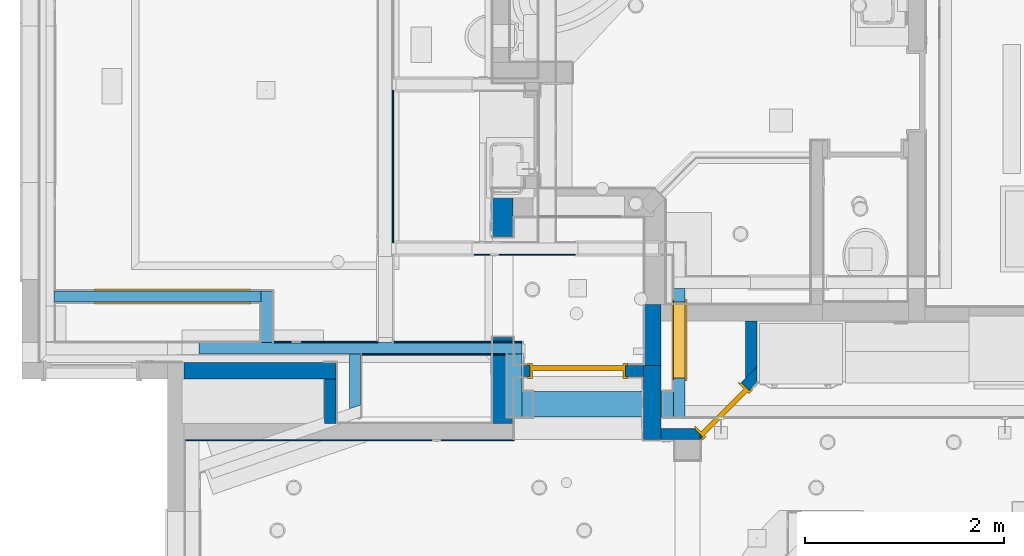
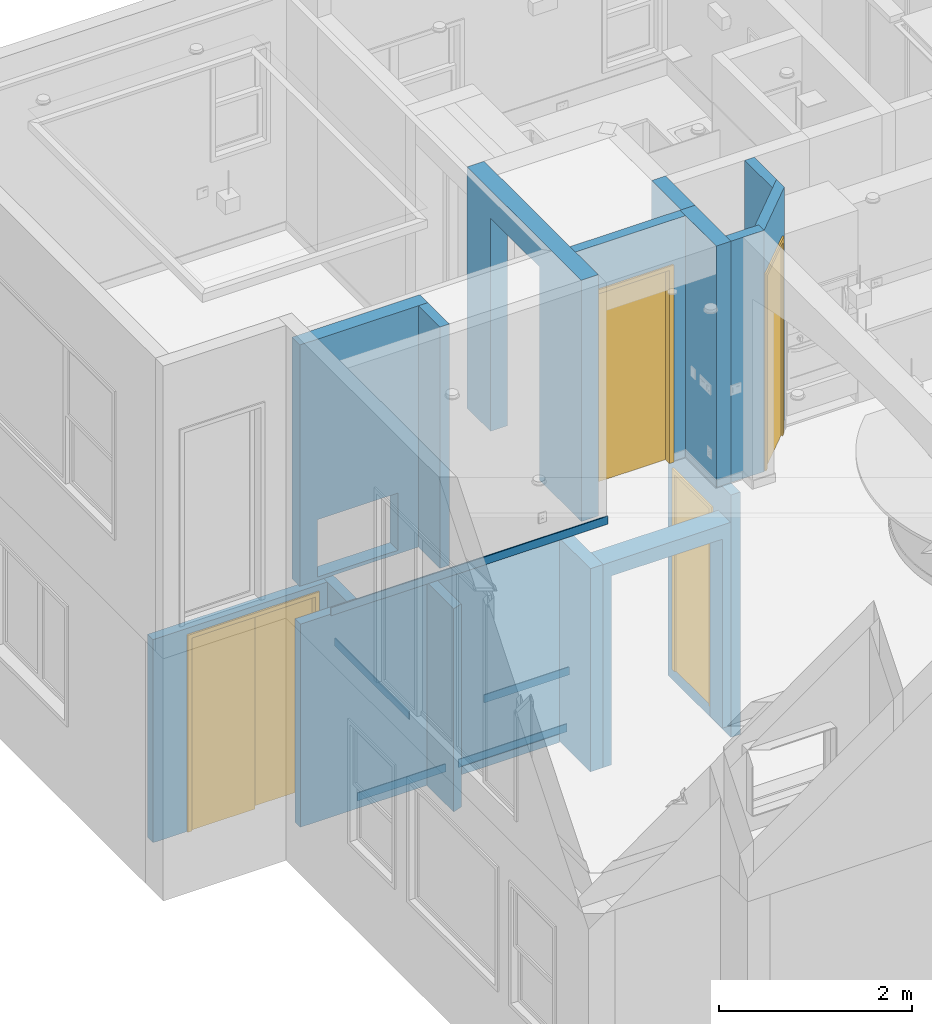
# One storey, part 7 of 60: 22 walls, 4 doors, 9 openings.
"""IFC2X3 building model written with IfcOpenShell, lengths in feet."""

from ifc_helpers import new_model, entity, si_unit, converted_unit, direction, frame, frame_2d, origin, origin_2d_with_axis, place, context, subcontext, project, spatial, polyline, rectangle, outline, extrude, clip, bounded_halfspace, source, transform, mapped, material, layer, layer_set, layer_usage, type_object, type_shapes, element, fill, save


model = new_model("IFC2X3")

# Units and contexts
model_context = context("Model", 3, precision=0.0001, world=origin(), true_north=direction((6.123031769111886e-17, 1.0)))
plan_context = context("Plan", 3, precision=0.0001, world=origin(), true_north=direction((6.123031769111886e-17, 1.0)))
body_context = subcontext(model_context, "Body", "Model", "MODEL_VIEW")
ifc_project = project(units=[converted_unit("LENGTHUNIT", "FOOT", entity("IfcLengthMeasure", 0.3048), si_unit("LENGTHUNIT", "METRE"), dimensions=[1, 0, 0, 0, 0, 0, 0]), converted_unit("AREAUNIT", "SQUARE FOOT", entity("IfcAreaMeasure", 0.09290304), si_unit("AREAUNIT", "SQUARE_METRE"), dimensions=[2, 0, 0, 0, 0, 0, 0]), converted_unit("PLANEANGLEUNIT", "DEGREE", entity("IfcPlaneAngleMeasure", 0.017453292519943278), si_unit("PLANEANGLEUNIT", "RADIAN"), dimensions=[0, 0, 0, 0, 0, 0, 0])], contexts=[model_context, plan_context])

# Site, building, storey
site_placement = place(None, origin())
site = spatial("IfcSite", under=ifc_project, at=site_placement, Name="Default", CompositionType="ELEMENT")
building_placement = place(site_placement, origin())
building = spatial("IfcBuilding", under=site, at=building_placement, CompositionType="ELEMENT")
storey_placement = place(building_placement, origin())
storey = spatial("IfcBuildingStorey", under=building, at=storey_placement, Name="First floor", CompositionType="ELEMENT", Elevation=0.0)

# Wall, openings
ifc_material = material(Name="Default New Material")
ifc_layer_1 = layer(ifc_material, 0.5416666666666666)
ifc_layer_set_1 = layer_set([ifc_layer_1], Name="Basic Wall:Wall_6.5\"")
ifc_layer_usage_1 = layer_usage(ifc_layer_set_1, "AXIS2", "NEGATIVE", 0.2708333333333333)
wall_type_1 = type_object("IfcWallType", Name="Basic Wall:Wall_6.5\"", PredefinedType="STANDARD", material=ifc_layer_set_1)
wall_1_placement = place(storey_placement, frame((-16.499999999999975, 31.312499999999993, 10.666666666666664)))
wall_1 = element("IfcWallStandardCase", 1, at=wall_1_placement, inside=storey, type_object=wall_type_1, material=ifc_layer_usage_1, Name="Basic Wall:Wall_6.5\"", ObjectType="Basic Wall:Wall_6.5\"", context=body_context, shape_type="SweptSolid", body=[
    extrude(rectangle(XDim=5.020833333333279, YDim=0.5416666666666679, at=frame_2d((2.5104166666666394, -1.1934897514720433e-15), x_axis=(-1.0, 0.0))), origin(), (0.0, 0.0, 1.0), 10.0),
])
opening_1_placement = place(wall_1_placement, frame((16.50000000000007, -31.312499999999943, -10.666666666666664)))
element("IfcOpeningElement", 2, at=opening_1_placement, cuts=wall_1, Name="Basic Wall:Wall_6.5\"", ObjectType="Recess", context=body_context, shape_type="SweptSolid", body=[
    extrude(rectangle(XDim=4.333333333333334, YDim=3.833333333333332, at=frame_2d((-8.881784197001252e-16, 0.0), x_axis=(1.0, 0.0))), frame((-14.395833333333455, 31.083333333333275, 17.333333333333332), z_axis=(0.0, 1.0, 0.0), x_axis=(0.0, 0.0, -1.0)), (0.0, 0.0, 1.0), 0.5),
])
opening_2_placement = place(wall_1_placement, frame((16.50000000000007, -31.312499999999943, -10.666666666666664)))
element("IfcOpeningElement", 3, at=opening_2_placement, cuts=wall_1, Name="Basic Wall:Wall_6.5\"", ObjectType="Opening", context=body_context, shape_type="SweptSolid", body=[
    extrude(rectangle(XDim=2.3749999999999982, YDim=3.166666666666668, at=frame_2d((1.7763568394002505e-15, 8.881784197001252e-16), x_axis=(0.0, 1.0))), frame((-14.229155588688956, 30.892313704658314, 12.0), z_axis=(0.0, 1.0, 0.0), x_axis=(-1.0, 0.0, 0.0)), (0.0, 0.0, 1.0), 0.6910196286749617),
])

# Wall
ifc_layer_usage_2 = layer_usage(ifc_layer_set_1, "AXIS2", "NEGATIVE", 0.2708333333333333)
wall_2_placement = place(storey_placement, frame((-1.0208333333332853, 31.49999999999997, 10.666666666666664), z_axis=(0.0, 0.0, 1.0), x_axis=(0.0, 1.0, 0.0)))
element("IfcWallStandardCase", 4, at=wall_2_placement, inside=storey, type_object=wall_type_1, material=ifc_layer_usage_2, Name="Basic Wall:Wall_6.5\"", ObjectType="Basic Wall:Wall_6.5\"", context=body_context, shape_type="SweptSolid", body=[
    extrude(rectangle(XDim=2.000000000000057, YDim=0.5416666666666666, at=frame_2d((1.0000000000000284, 5.551115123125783e-17), x_axis=(-1.0, 0.0))), origin(), (0.0, 0.0, 1.0), 10.0),
])

# Wall, opening
ifc_layer_2 = layer(ifc_material, 0.6666666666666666)
ifc_layer_set_2 = layer_set([ifc_layer_2], Name="Basic Wall:Wall_8\"")
ifc_layer_usage_3 = layer_usage(ifc_layer_set_2, "AXIS2", "NEGATIVE", 0.33333333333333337)
wall_type_2 = type_object("IfcWallType", Name="Basic Wall:Wall_8\"", PredefinedType="STANDARD", material=ifc_layer_set_2)
wall_3_placement = place(storey_placement, frame((-5.979166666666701, 29.58333333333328, 10.666666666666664), z_axis=(0.0, 0.0, 1.0), x_axis=(0.0, 1.0, 0.0)))
wall_3 = element("IfcWallStandardCase", 5, at=wall_3_placement, inside=storey, type_object=wall_type_2, material=ifc_layer_usage_3, Name="Basic Wall:Wall_8\"", ObjectType="Basic Wall:Wall_8\"", context=body_context, shape_type="SweptSolid", body=[
    extrude(rectangle(XDim=7.750000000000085, YDim=0.666666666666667, at=frame_2d((3.8750000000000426, -6.106226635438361e-16), x_axis=(1.0, 0.0))), origin(), (0.0, 0.0, 1.0), 10.0),
])
opening_3_placement = place(wall_3_placement, frame((-29.583333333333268, -5.979166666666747, -10.666666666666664)))
element("IfcOpeningElement", 6, at=opening_3_placement, cuts=wall_3, Name="Basic Wall:Wall_8\"", ObjectType="Opening", context=body_context, shape_type="SweptSolid", body=[
    extrude(rectangle(XDim=8.833333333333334, YDim=3.3333333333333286, at=frame_2d((8.881784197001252e-16, 0.0), x_axis=(1.0, 0.0))), frame((34.08333333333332, 5.645833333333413, 15.083333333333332), z_axis=(0.0, 1.0, 0.0), x_axis=(0.0, 0.0, 1.0)), (0.0, 0.0, 1.0), 0.666666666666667),
])

# Wall
ifc_layer_3 = layer(ifc_material, 0.375)
ifc_layer_set_3 = layer_set([ifc_layer_3], Name="Basic Wall:Wall_4.5\"")
ifc_layer_usage_4 = layer_usage(ifc_layer_set_3, "AXIS2", "NEGATIVE", 0.1875)
wall_type_3 = type_object("IfcWallType", Name="Basic Wall:Wall_4.5\"", PredefinedType="STANDARD", material=ifc_layer_set_3)
wall_4_placement = place(storey_placement, frame((-11.666666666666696, 31.041666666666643, 10.666666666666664), z_axis=(0.0, 0.0, 1.0), x_axis=(0.0, -1.0, 0.0)))
element("IfcWallStandardCase", 7, at=wall_4_placement, inside=storey, type_object=wall_type_3, material=ifc_layer_usage_4, Name="Basic Wall:Wall_4.5\"", ObjectType="Basic Wall:Wall_4.5\"", context=body_context, shape_type="SweptSolid", body=[
    extrude(rectangle(XDim=1.4583333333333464, YDim=0.375, at=frame_2d((0.7291666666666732, 0.0), x_axis=(-1.0, 0.0))), origin(), (0.0, 0.0, 1.0), 10.0),
])

# Wall, opening
ifc_layer_usage_5 = layer_usage(ifc_layer_set_3, "AXIS2", "NEGATIVE", 0.1875)
wall_5_placement = place(storey_placement, frame((-0.7499999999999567, 29.229166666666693, 10.666666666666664)))
wall_5 = element("IfcWallStandardCase", 8, at=wall_5_placement, inside=storey, type_object=wall_type_3, material=ifc_layer_usage_5, Name="Basic Wall:Wall_4.5\"", ObjectType="Basic Wall:Wall_4.5\"", context=body_context, shape_type="SweptSolid", body=[
    extrude(rectangle(XDim=1.2916666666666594, YDim=0.375, at=frame_2d((0.6458333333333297, 0.0), x_axis=(-1.0, 0.0))), origin(), (0.0, 0.0, 1.0), 10.0),
])
opening_4_placement = place(wall_5_placement, frame((0.7500000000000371, -29.22916666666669, 0.0)))
element("IfcOpeningElement", 9, at=opening_4_placement, cuts=wall_5, Name="Basic Wall:Wall_4.5\"", ObjectType="Opening", context=body_context, shape_type="SweptSolid", body=[
    extrude(rectangle(XDim=8.083333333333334, YDim=0.3749999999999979, at=frame_2d((-1.8735013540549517e-15, 8.881784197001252e-16), x_axis=(0.0, 1.0))), frame((0.4975624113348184, 29.262727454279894, 4.041666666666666), z_axis=(0.7071067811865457, 0.7071067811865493, 0.0), x_axis=(-0.7071067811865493, 0.7071067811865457, 0.0)), (0.0, 0.0, 1.0), 2.1666666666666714),
])

# Wall, opening, door
ifc_layer_usage_6 = layer_usage(ifc_layer_set_3, "AXIS2", "NEGATIVE", 0.1875)
wall_6_placement = place(storey_placement, frame((0.40908414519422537, 29.17424918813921, 10.666666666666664), z_axis=(0.0, 0.0, 1.0), x_axis=(0.7071067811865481, 0.7071067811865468, 0.0)))
wall_6 = element("IfcWallStandardCase", 10, at=wall_6_placement, inside=storey, type_object=wall_type_3, material=ifc_layer_usage_6, Name="Basic Wall:Wall_4.5\"", ObjectType="Basic Wall:Wall_4.5\"", context=body_context, shape_type="SweptSolid", body=[
    extrude(outline(polyline([(0.0, -0.1874999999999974), (2.6511736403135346, -0.18749999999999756), (3.0261736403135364, 0.18750000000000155), (2.495843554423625, 0.18750000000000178), (0.155330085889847, 0.18750000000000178), (0.2651650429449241, 0.07766504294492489), (0.0, -0.1874999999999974)])), origin(), (0.0, 0.0, 1.0), 10.0),
])
opening_5_placement = place(wall_6_placement, frame((2.2917938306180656, 0.18750000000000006, 0.0)))
opening_5 = element("IfcOpeningElement", 11, at=opening_5_placement, cuts=wall_6, Name="C_Single Door:2'-0\" X 8'-0\":1", ObjectType="Opening", context=body_context, shape_type="SweptSolid", body=[
    extrude(rectangle(XDim=2.1666666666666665, YDim=8.083333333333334, at=frame_2d((4.041666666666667, 1.083333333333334), x_axis=(0.0, -1.0))), frame((0.0, 0.0, 0.0), z_axis=(0.0, -1.0, 0.0), x_axis=(0.0, 0.0, 1.0)), (0.0, 0.0, 1.0), 0.37499999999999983),
])
door_style_1 = type_object("IfcDoorStyle", Name="C_Single Door:2'-0\" X 8'-0\"", ConstructionType="NOTDEFINED", OperationType="SINGLE_SWING_LEFT", ParameterTakesPrecedence=False, Sizeable=False, material=ifc_material)
shared_shape_1 = source(origin(), body_context, "Body", "SweptSolid", [
    extrude(rectangle(XDim=0.16666666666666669, YDim=1.9999999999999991, at=origin_2d_with_axis()), frame((1.0833333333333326, 0.08333333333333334, 0.0), z_axis=(0.0, 0.0, 1.0), x_axis=(0.0, 1.0, 0.0)), (0.0, 0.0, 1.0), 8.0),
    extrude(outline(polyline([(-3.958333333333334, 1.0), (4.041666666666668, 1.0), (4.041666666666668, 1.1666666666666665), (-4.125000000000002, 1.1666666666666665), (-4.125000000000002, -1.1666666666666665), (4.041666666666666, -1.1666666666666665), (4.041666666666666, -1.0), (-3.958333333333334, -1.0), (-3.958333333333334, 1.0)])), frame((1.0833333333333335, -0.0625, 4.041666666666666), z_axis=(0.0, 1.0, 0.0), x_axis=(0.0, 0.0, -1.0)), (0.0, 0.0, 1.0), 0.0625),
    extrude(outline(polyline([(-3.989583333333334, 1.0), (4.010416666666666, 1.0), (4.010416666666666, 1.0416666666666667), (-4.03125, 1.0416666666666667), (-4.03125, -1.0416666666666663), (4.010416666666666, -1.0416666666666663), (4.010416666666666, -1.0), (-3.989583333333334, -1.0), (-3.989583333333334, 1.0)])), frame((1.0833333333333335, 0.375, 4.010416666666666), z_axis=(0.0, 1.0, 0.0), x_axis=(0.0, 0.0, -1.0)), (0.0, 0.0, 1.0), 0.0625),
    extrude(outline(polyline([(-4.020833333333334, -1.0833333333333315), (4.0625, -1.0833333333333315), (4.0625, 1.0833333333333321), (-4.020833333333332, 1.0833333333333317), (-4.020833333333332, 1.0), (3.979166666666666, 1.0), (3.979166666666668, -1.0), (-4.020833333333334, -1.0), (-4.020833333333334, -1.0833333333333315)])), frame((1.0833333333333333, 0.0, 4.020833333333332), z_axis=(0.0, 1.0, 0.0), x_axis=(0.0, 0.0, 1.0)), (0.0, 0.0, 1.0), 0.375),
])
type_shapes(door_style_1, [shared_shape_1])
door_1_placement = place(opening_5_placement, frame((-2.166666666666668, -0.3750000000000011, 0.0)))
door_1 = element("IfcDoor", 12, at=door_1_placement, inside=storey, type_object=door_style_1, material=ifc_material, Name="C_Single Door:2'-0\" X 8'-0\"", ObjectType="C_Single Door:2'-0\" X 8'-0\"", OverallHeight=8.083333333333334, OverallWidth=2.166666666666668, context=body_context, shape_type="MappedRepresentation", body=[
    mapped(shared_shape_1, transform((0.0, 0.0, 0.0), scale=1.0)),
])
fill(opening_5, door_1)

# Wall
ifc_layer_usage_7 = layer_usage(ifc_layer_set_3, "AXIS2", "NEGATIVE", 0.1875)
wall_7_placement = place(storey_placement, frame((2.22882952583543, 31.07165961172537, 10.666666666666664), z_axis=(0.0, 0.0, 1.0), x_axis=(0.0, 1.0, 0.0)))
element("IfcWallStandardCase", 13, at=wall_7_placement, inside=storey, type_object=wall_type_3, material=ifc_layer_usage_7, Name="Basic Wall:Wall_4.5\"", ObjectType="Basic Wall:Wall_4.5\"", context=body_context, shape_type="SweptSolid", body=[
    extrude(outline(polyline([(1.8866737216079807, -0.1874999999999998), (1.8866737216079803, 0.1875000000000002), (0.0, 0.1875), (0.3750000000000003, -0.18749999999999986), (1.8866737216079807, -0.1874999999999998)])), origin(), (0.0, 0.0, 1.0), 10.0),
])

# Wall, opening, door
ifc_layer_usage_8 = layer_usage(ifc_layer_set_3, "AXIS2", "NEGATIVE", 0.1875)
wall_8_placement = place(storey_placement, frame((-5.645833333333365, 31.312499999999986, 10.666666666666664)))
wall_8 = element("IfcWallStandardCase", 14, at=wall_8_placement, inside=storey, type_object=wall_type_3, material=ifc_layer_usage_8, Name="Basic Wall:Wall_4.5\"", ObjectType="Basic Wall:Wall_4.5\"", context=body_context, shape_type="SweptSolid", body=[
    extrude(rectangle(XDim=4.31250000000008, YDim=0.375, at=frame_2d((2.15625000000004, -8.465450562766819e-16), x_axis=(-1.0, 0.0))), origin(), (0.0, 0.0, 1.0), 10.0),
])
opening_6_placement = place(wall_8_placement, frame((0.5625000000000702, -0.18750000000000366, 0.0)))
opening_6 = element("IfcOpeningElement", 15, at=opening_6_placement, cuts=wall_8, Name="C_Single Door:3'-0\" X 8'-0\":1", ObjectType="Opening", context=body_context, shape_type="SweptSolid", body=[
    extrude(rectangle(XDim=3.166666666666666, YDim=8.083333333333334, at=frame_2d((4.041666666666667, 1.583333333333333), x_axis=(0.0, -1.0))), frame((0.0, 0.0, 0.0), z_axis=(0.0, 1.0, 0.0), x_axis=(0.0, 0.0, 1.0)), (0.0, 0.0, 1.0), 0.375),
])
door_style_2 = type_object("IfcDoorStyle", Name="C_Single Door:3'-0\" X 8'-0\"", ConstructionType="NOTDEFINED", OperationType="SINGLE_SWING_LEFT", ParameterTakesPrecedence=False, Sizeable=False, material=ifc_material)
shared_shape_2 = source(origin(), body_context, "Body", "SweptSolid", [
    extrude(rectangle(XDim=0.16666666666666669, YDim=2.999999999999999, at=origin_2d_with_axis()), frame((1.5833333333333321, 0.08333333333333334, 0.0), z_axis=(0.0, 0.0, 1.0), x_axis=(0.0, 1.0, 0.0)), (0.0, 0.0, 1.0), 8.0),
    extrude(outline(polyline([(-3.958333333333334, 1.4999999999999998), (4.041666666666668, 1.4999999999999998), (4.041666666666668, 1.6666666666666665), (-4.125000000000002, 1.6666666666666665), (-4.125000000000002, -1.6666666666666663), (4.041666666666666, -1.6666666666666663), (4.041666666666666, -1.4999999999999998), (-3.958333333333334, -1.4999999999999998), (-3.958333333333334, 1.4999999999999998)])), frame((1.583333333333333, -0.0625, 4.041666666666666), z_axis=(0.0, 1.0, 0.0), x_axis=(0.0, 0.0, -1.0)), (0.0, 0.0, 1.0), 0.0625),
    extrude(outline(polyline([(-3.958333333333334, 1.4999999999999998), (4.041666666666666, 1.4999999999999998), (4.041666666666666, 1.6666666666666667), (-4.125, 1.6666666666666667), (-4.125, -1.6666666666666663), (4.041666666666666, -1.6666666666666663), (4.041666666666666, -1.5000000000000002), (-3.958333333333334, -1.5000000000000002), (-3.958333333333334, 1.4999999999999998)])), frame((1.5833333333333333, 0.375, 4.041666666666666), z_axis=(0.0, 1.0, 0.0), x_axis=(0.0, 0.0, -1.0)), (0.0, 0.0, 1.0), 0.0625),
    extrude(outline(polyline([(-4.020833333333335, -1.5833333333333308), (4.062499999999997, -1.5833333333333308), (4.062499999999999, 1.5833333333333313), (-4.020833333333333, 1.5833333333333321), (-4.020833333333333, 1.4999999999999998), (3.979166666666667, 1.4999999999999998), (3.979166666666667, -1.4999999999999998), (-4.020833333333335, -1.4999999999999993), (-4.020833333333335, -1.5833333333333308)])), frame((1.5833333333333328, 0.0, 4.020833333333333), z_axis=(0.0, 1.0, 0.0), x_axis=(0.0, 0.0, 1.0)), (0.0, 0.0, 1.0), 0.375),
])
type_shapes(door_style_2, [shared_shape_2])
door_2_placement = place(opening_6_placement, frame((3.166666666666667, 0.3749999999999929, 0.0), z_axis=(0.0, 0.0, 1.0), x_axis=(-1.0, 0.0, 0.0)))
door_2 = element("IfcDoor", 16, at=door_2_placement, inside=storey, type_object=door_style_2, material=ifc_material, Name="C_Single Door:3'-0\" X 8'-0\"", ObjectType="C_Single Door:3'-0\" X 8'-0\"", OverallHeight=8.083333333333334, OverallWidth=3.166666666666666, context=body_context, shape_type="MappedRepresentation", body=[
    mapped(shared_shape_2, transform((0.0, 0.0, 0.0), scale=1.0)),
])
fill(opening_6, door_2)

ifc_layer_usage_9 = layer_usage(ifc_layer_set_3, "AXIS2", "NEGATIVE", 0.1875)
wall_9_placement = place(storey_placement, frame((-0.14583333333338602, 34.041666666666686, -0.5), z_axis=(0.0, 0.0, 1.0), x_axis=(0.0, -1.0, 0.0)))
wall_9 = element("IfcWallStandardCase", 17, at=wall_9_placement, inside=storey, type_object=wall_type_3, material=ifc_layer_usage_9, Name="Basic Wall:Wall_4.5\"", ObjectType="Basic Wall:Wall_4.5\"", context=body_context, shape_type="SweptSolid", body=[
    extrude(rectangle(XDim=4.250000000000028, YDim=0.375, at=frame_2d((2.125000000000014, 1.3877787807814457e-17), x_axis=(-1.0, 0.0))), origin(), (0.0, 0.0, 1.0), 10.041666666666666),
])
opening_7_placement = place(wall_9_placement, frame((2.9583333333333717, 0.18749999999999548, 0.5)))
opening_7 = element("IfcOpeningElement", 18, at=opening_7_placement, cuts=wall_9, Name="C_Single Door:2'-4\" X 8'-2\":1", ObjectType="Opening", context=body_context, shape_type="SweptSolid", body=[
    extrude(rectangle(XDim=2.4999999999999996, YDim=8.25, at=frame_2d((4.125, 1.25), x_axis=(0.0, 1.0))), frame((0.0, 0.0, 0.0), z_axis=(0.0, -1.0, 0.0), x_axis=(0.0, 0.0, 1.0)), (0.0, 0.0, 1.0), 0.375),
])
door_style_3 = type_object("IfcDoorStyle", Name="C_Single Door:2'-4\" X 8'-2\"", ConstructionType="NOTDEFINED", OperationType="SINGLE_SWING_RIGHT", ParameterTakesPrecedence=False, Sizeable=False, material=ifc_material)
shared_shape_3 = source(origin(), body_context, "Body", "SweptSolid", [
    extrude(rectangle(XDim=2.333333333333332, YDim=0.16666666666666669, at=origin_2d_with_axis()), frame((1.2500000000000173, 0.08333333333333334, 0.0)), (0.0, 0.0, 1.0), 8.166666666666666),
    extrude(outline(polyline([(-4.041666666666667, 1.1666666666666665), (4.125000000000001, 1.1666666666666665), (4.125000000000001, 1.3333333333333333), (-4.208333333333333, 1.3333333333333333), (-4.208333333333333, -1.3333333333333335), (4.124999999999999, -1.3333333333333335), (4.124999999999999, -1.1666666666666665), (-4.041666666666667, -1.1666666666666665), (-4.041666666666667, 1.1666666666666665)])), frame((1.2500000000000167, 0.0, 4.124999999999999), z_axis=(0.0, -1.0, 0.0), x_axis=(0.0, 0.0, -1.0)), (0.0, 0.0, 1.0), 0.0625),
    extrude(outline(polyline([(-4.041666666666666, 1.1666666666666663), (4.125, 1.1666666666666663), (4.125, 1.3333333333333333), (-4.208333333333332, 1.3333333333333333), (-4.208333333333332, -1.3333333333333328), (4.125, -1.3333333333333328), (4.125, -1.1666666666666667), (-4.041666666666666, -1.1666666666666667), (-4.041666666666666, 1.1666666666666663)])), frame((1.2500000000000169, 0.4375, 4.125), z_axis=(0.0, -1.0, 0.0), x_axis=(0.0, 0.0, -1.0)), (0.0, 0.0, 1.0), 0.0625),
    extrude(outline(polyline([(1.1666666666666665, -4.104166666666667), (1.249999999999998, -4.104166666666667), (1.2499999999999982, 4.145833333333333), (-1.2499999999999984, 4.145833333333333), (-1.2499999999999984, -4.104166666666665), (-1.1666666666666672, -4.104166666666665), (-1.1666666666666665, 4.062500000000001), (1.1666666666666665, 4.062500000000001), (1.1666666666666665, -4.104166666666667)])), frame((1.2500000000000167, 0.375, 4.104166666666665), z_axis=(0.0, -1.0, 0.0), x_axis=(1.0, 0.0, 0.0)), (0.0, 0.0, 1.0), 0.375),
])
type_shapes(door_style_3, [shared_shape_3])
door_3_placement = place(opening_7_placement, frame((-2.500000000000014, -0.37499999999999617, 0.0)))
door_3 = element("IfcDoor", 19, at=door_3_placement, inside=storey, type_object=door_style_3, material=ifc_material, Name="C_Single Door:2'-4\" X 8'-2\"", ObjectType="C_Single Door:2'-4\" X 8'-2\"", OverallHeight=8.25, OverallWidth=2.5, context=body_context, shape_type="MappedRepresentation", body=[
    mapped(shared_shape_3, transform((0.0, 0.0, 0.0), scale=1.0)),
])
fill(opening_7, door_3)

# Walls
ifc_layer_usage_10 = layer_usage(ifc_layer_set_3, "AXIS2", "POSITIVE", -0.1875)
wall_10_placement = place(storey_placement, frame((-10.854166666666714, 30.0592977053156, 0.0), z_axis=(0.0, 0.0, 1.0), x_axis=(0.0, 1.0, 0.0)))
element("IfcWallStandardCase", 20, at=wall_10_placement, inside=storey, type_object=wall_type_3, material=ifc_layer_usage_10, Name="Basic Wall:Wall_4.5\"", ObjectType="Basic Wall:Wall_4.5\"", context=body_context, shape_type="SweptSolid", body=[
    extrude(outline(polyline([(1.8157022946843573, -0.1875), (1.8157022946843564, 0.1875), (0.0, 0.1875), (0.1289062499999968, -0.18749999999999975), (1.8157022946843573, -0.1875)])), origin(), (0.0, 0.0, 1.0), 8.416666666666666),
])
ifc_layer_usage_11 = layer_usage(ifc_layer_set_3, "AXIS2", "NEGATIVE", 0.1875)
wall_11_placement = place(storey_placement, frame((-16.0, 32.06249999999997, 0.0)))
element("IfcWallStandardCase", 21, at=wall_11_placement, inside=storey, type_object=wall_type_3, material=ifc_layer_usage_11, Name="Basic Wall:Wall_4.5\"", ObjectType="Basic Wall:Wall_4.5\"", context=body_context, shape_type="SweptSolid", body=[
    extrude(rectangle(XDim=10.666666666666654, YDim=0.375, at=frame_2d((5.333333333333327, 6.938893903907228e-16), x_axis=(-1.0, 0.0))), origin(), (0.0, 0.0, 1.0), 8.416666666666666),
])
ifc_layer_usage_12 = layer_usage(ifc_layer_set_3, "AXIS2", "POSITIVE", -0.1875)
wall_12_placement = place(storey_placement, frame((-13.770833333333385, 32.249999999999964, 0.0), z_axis=(0.0, 0.0, 1.0), x_axis=(0.0, 1.0, 0.0)))
element("IfcWallStandardCase", 22, at=wall_12_placement, inside=storey, type_object=wall_type_3, material=ifc_layer_usage_12, Name="Basic Wall:Wall_4.5\"", ObjectType="Basic Wall:Wall_4.5\"", context=body_context, shape_type="SweptSolid", body=[
    extrude(rectangle(XDim=1.70833333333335, YDim=0.375, at=frame_2d((0.854166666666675, 4.996003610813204e-16), x_axis=(-1.0, 0.0))), origin(), (0.0, 0.0, 1.0), 8.416666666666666),
])

# Wall, opening, door
ifc_layer_usage_13 = layer_usage(ifc_layer_set_3, "AXIS2", "POSITIVE", -0.1875)
wall_13_placement = place(storey_placement, frame((-13.958333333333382, 33.770833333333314, 0.0), z_axis=(0.0, 0.0, 1.0), x_axis=(-1.0, 0.0, 0.0)))
wall_13 = element("IfcWallStandardCase", 23, at=wall_13_placement, inside=storey, type_object=wall_type_3, material=ifc_layer_usage_13, Name="Basic Wall:Wall_4.5\"", ObjectType="Basic Wall:Wall_4.5\"", context=body_context, shape_type="SweptSolid", body=[
    extrude(rectangle(XDim=6.833333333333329, YDim=0.375, at=frame_2d((3.4166666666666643, 0.0), x_axis=(1.0, 0.0))), origin(), (0.0, 0.0, 1.0), 8.416666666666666),
])
opening_8_placement = place(wall_13_placement, frame((0.41666666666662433, -0.18750000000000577, 0.0)))
opening_8 = element("IfcOpeningElement", 24, at=opening_8_placement, cuts=wall_13, Name="C_Sliding Door Double:4'-10\" X 8'-0\":1", ObjectType="Opening", context=body_context, shape_type="SweptSolid", body=[
    extrude(rectangle(XDim=8.083333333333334, YDim=4.999999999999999, at=frame_2d((4.041666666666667, 2.5), x_axis=(-1.0, 0.0))), frame((0.0, 0.0, 0.0), z_axis=(0.0, 1.0, 0.0), x_axis=(0.0, 0.0, 1.0)), (0.0, 0.0, 1.0), 0.375),
])
door_style_4 = type_object("IfcDoorStyle", Name="C_Sliding Door Double:4'-10\" X 8'-0\"", ConstructionType="NOTDEFINED", OperationType="NOTDEFINED", ParameterTakesPrecedence=False, Sizeable=False, material=ifc_material)
shared_shape_4 = source(origin(), body_context, "Body", "SweptSolid", [
    extrude(rectangle(XDim=0.16666666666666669, YDim=2.5000000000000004, at=frame_2d((0.0, 2.220446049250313e-16), x_axis=(1.0, 0.0))), frame((3.666666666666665, 0.2500000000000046, 0.0), z_axis=(0.0, 0.0, 1.0), x_axis=(0.0, 1.0, 0.0)), (0.0, 0.0, 1.0), 8.0),
    extrude(rectangle(XDim=0.16666666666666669, YDim=2.5, at=origin_2d_with_axis()), frame((1.333333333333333, 0.08333333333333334, 0.0), z_axis=(0.0, 0.0, 1.0), x_axis=(0.0, 1.0, 0.0)), (0.0, 0.0, 1.0), 8.0),
    extrude(outline(polyline([(-3.958333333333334, 2.416666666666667), (4.041666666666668, 2.416666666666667), (4.041666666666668, 2.583333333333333), (-4.125000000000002, 2.583333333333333), (-4.125000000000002, -2.583333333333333), (4.041666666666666, -2.583333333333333), (4.041666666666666, -2.416666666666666), (-3.958333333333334, -2.416666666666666), (-3.958333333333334, 2.416666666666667)])), frame((2.5, -0.0625, 4.041666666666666), z_axis=(0.0, 1.0, 0.0), x_axis=(0.0, 0.0, -1.0)), (0.0, 0.0, 1.0), 0.0625),
    extrude(outline(polyline([(-3.958333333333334, 2.416666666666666), (4.041666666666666, 2.416666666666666), (4.041666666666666, 2.583333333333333), (-4.125, 2.583333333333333), (-4.125, -2.583333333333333), (4.041666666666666, -2.583333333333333), (4.041666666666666, -2.416666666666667), (-3.958333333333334, -2.416666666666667), (-3.958333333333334, 2.416666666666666)])), frame((2.499999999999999, 0.375, 4.041666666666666), z_axis=(0.0, 1.0, 0.0), x_axis=(0.0, 0.0, -1.0)), (0.0, 0.0, 1.0), 0.0625),
    extrude(outline(polyline([(-4.020833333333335, -2.499999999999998), (4.062499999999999, -2.499999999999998), (4.062499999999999, 2.499999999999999), (-4.020833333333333, 2.4999999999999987), (-4.020833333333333, 2.4166666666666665), (3.979166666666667, 2.4166666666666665), (3.979166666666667, -2.4166666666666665), (-4.020833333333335, -2.4166666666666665), (-4.020833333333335, -2.499999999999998)])), frame((2.4999999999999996, 0.0, 4.020833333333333), z_axis=(0.0, 1.0, 0.0), x_axis=(0.0, 0.0, 1.0)), (0.0, 0.0, 1.0), 0.375),
])
type_shapes(door_style_4, [shared_shape_4])
door_4_placement = place(opening_8_placement, frame((5.0, 0.3749999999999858, 0.0), z_axis=(0.0, 0.0, 1.0), x_axis=(-1.0, 0.0, 0.0)))
door_4 = element("IfcDoor", 25, at=door_4_placement, inside=storey, type_object=door_style_4, material=ifc_material, Name="C_Sliding Door Double:4'-10\" X 8'-0\"", ObjectType="C_Sliding Door Double:4'-10\" X 8'-0\"", OverallHeight=8.083333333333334, OverallWidth=4.999999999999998, context=body_context, shape_type="MappedRepresentation", body=[
    mapped(shared_shape_4, transform((0.0, 0.0, 0.0), scale=1.0)),
])
fill(opening_8, door_4)

# Wall, opening
ifc_layer_4 = layer(ifc_material, 0.8333333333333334)
ifc_layer_set_4 = layer_set([ifc_layer_4], Name="Basic Wall:Wall_10\"")
ifc_layer_usage_14 = layer_usage(ifc_layer_set_4, "AXIS2", "POSITIVE", -0.41666666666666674)
wall_type_4 = type_object("IfcWallType", Name="Basic Wall:Wall_10\"", PredefinedType="STANDARD", material=ifc_layer_set_4)
wall_14_placement = place(storey_placement, frame((-0.33333333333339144, 30.208333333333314, 0.0), z_axis=(0.0, 0.0, 1.0), x_axis=(-1.0, 0.0, 0.0)))
wall_14 = element("IfcWallStandardCase", 26, at=wall_14_placement, inside=storey, type_object=wall_type_4, material=ifc_layer_usage_14, Name="Basic Wall:Wall_10\"", ObjectType="Basic Wall:Wall_10\"", context=body_context, shape_type="SweptSolid", body=[
    extrude(rectangle(XDim=4.9999999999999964, YDim=0.8333333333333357, at=frame_2d((2.4999999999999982, -6.38378239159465e-16), x_axis=(-1.0, 0.0))), origin(), (0.0, 0.0, 1.0), 8.416666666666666),
])
opening_9_placement = place(wall_14_placement, frame((-0.3333333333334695, 30.208333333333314, 0.0)))
element("IfcOpeningElement", 27, at=opening_9_placement, cuts=wall_14, Name="Basic Wall:Wall_10\"", ObjectType="Opening", context=body_context, shape_type="SweptSolid", body=[
    extrude(rectangle(XDim=7.83333333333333, YDim=4.333333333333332, at=origin_2d_with_axis()), frame((2.8333333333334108, -30.62499999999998, 3.916666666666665), z_axis=(0.0, 1.0, 0.0), x_axis=(0.0, 0.0, -1.0)), (0.0, 0.0, 1.0), 0.8333333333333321),
])

# Walls
ifc_layer_5 = layer(ifc_material, 0.5833333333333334)
ifc_layer_set_5 = layer_set([ifc_layer_5], Name="Basic Wall:Wall_7\"")
ifc_layer_usage_15 = layer_usage(ifc_layer_set_5, "AXIS2", "POSITIVE", -0.2916666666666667)
wall_type_5 = type_object("IfcWallType", Name="Basic Wall:Wall_7\"", PredefinedType="STANDARD", material=ifc_layer_set_5)
wall_15_placement = place(storey_placement, frame((-1.0416666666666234, 29.041666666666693, 10.666666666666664), z_axis=(0.0, 0.0, 1.0), x_axis=(0.0, 1.0, 0.0)))
element("IfcWallStandardCase", 28, at=wall_15_placement, inside=storey, type_object=wall_type_5, material=ifc_layer_usage_15, Name="Basic Wall:Wall_7\"", ObjectType="Basic Wall:Wall_7\"", context=body_context, shape_type="SweptSolid", body=[
    extrude(rectangle(XDim=2.458333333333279, YDim=0.5833333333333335, at=frame_2d((1.2291666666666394, -8.326672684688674e-17), x_axis=(-1.0, 0.0))), origin(), (0.0, 0.0, 1.0), 10.0),
])
ifc_layer_6 = layer(ifc_material, 0.5)
ifc_layer_set_6 = layer_set([ifc_layer_6], Name="Basic Wall:Wall_6\"")
ifc_layer_usage_16 = layer_usage(ifc_layer_set_6, "AXIS2", "NEGATIVE", 0.25)
wall_type_6 = type_object("IfcWallType", Name="Basic Wall:Wall_6\"", PredefinedType="STANDARD", material=ifc_layer_set_6)
wall_16_placement = place(storey_placement, frame((-5.583333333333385, 31.874999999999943, 0.0), z_axis=(0.0, 0.0, 1.0), x_axis=(0.0, -1.0, 0.0)))
element("IfcWallStandardCase", 29, at=wall_16_placement, inside=storey, type_object=wall_type_6, material=ifc_layer_usage_16, Name="Basic Wall:Wall_6\"", ObjectType="Basic Wall:Wall_6\"", context=body_context, shape_type="SweptSolid", body=[
    extrude(rectangle(XDim=2.0833333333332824, YDim=0.5, at=frame_2d((1.0416666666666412, 0.0), x_axis=(-1.0, 0.0))), origin(), (0.0, 0.0, 1.0), 8.416666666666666),
])
ifc_layer_7 = layer(ifc_material, 0.041666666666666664)
ifc_layer_set_7 = layer_set([ifc_layer_7], Name="Basic Wall:Wall Border_T1")
ifc_layer_usage_17 = layer_usage(ifc_layer_set_7, "AXIS2", "POSITIVE", -0.020833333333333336)
wall_type_7 = type_object("IfcWallType", Name="Basic Wall:Wall Border_T1", PredefinedType="STANDARD", material=ifc_layer_set_7)
wall_17_placement = place(storey_placement, frame((-10.625000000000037, 31.854166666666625, 0.0)))
element("IfcWallStandardCase", 30, at=wall_17_placement, inside=storey, type_object=wall_type_7, material=ifc_layer_usage_17, Name="Basic Wall:Wall Border_T1", ObjectType="Basic Wall:Wall Border_T1", context=body_context, shape_type="SweptSolid", body=[
    extrude(rectangle(XDim=4.749999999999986, YDim=0.0416666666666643, at=frame_2d((2.374999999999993, -1.231653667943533e-16), x_axis=(-1.0, 0.0))), origin(), (0.0, 0.0, 1.0), 0.3333333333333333),
])
ifc_layer_usage_18 = layer_usage(ifc_layer_set_7, "AXIS2", "POSITIVE", -0.020833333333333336)
wall_18_placement = place(storey_placement, frame((-5.3333333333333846, 32.27083333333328, 0.0), z_axis=(0.0, 0.0, 1.0), x_axis=(-1.0, 0.0, 0.0)))
element("IfcWallStandardCase", 31, at=wall_18_placement, inside=storey, type_object=wall_type_7, material=ifc_layer_usage_18, Name="Basic Wall:Wall Border_T1", ObjectType="Basic Wall:Wall Border_T1", context=body_context, shape_type="SweptSolid", body=[
    extrude(rectangle(XDim=4.250000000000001, YDim=0.041666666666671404, at=frame_2d((2.1250000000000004, -6.938893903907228e-17), x_axis=(-1.0, 0.0))), origin(), (0.0, 0.0, 1.0), 0.3333333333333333),
])
ifc_layer_usage_19 = layer_usage(ifc_layer_set_7, "AXIS2", "POSITIVE", -0.020833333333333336)
wall_19_placement = place(storey_placement, frame((-10.083333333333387, 32.27083333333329, 0.0), z_axis=(0.0, 0.0, 1.0), x_axis=(-1.0, 0.0, 0.0)))
element("IfcWallStandardCase", 32, at=wall_19_placement, inside=storey, type_object=wall_type_7, material=ifc_layer_usage_19, Name="Basic Wall:Wall Border_T1", ObjectType="Basic Wall:Wall Border_T1", context=body_context, shape_type="Clipping", body=[
    clip(extrude(rectangle(XDim=3.458333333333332, YDim=0.041666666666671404, at=frame_2d((1.729166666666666, -8.500145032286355e-17), x_axis=(-1.0, 0.0))), origin(), (0.0, 0.0, 1.0), 0.3333333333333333), bounded_halfspace(frame((3.4583333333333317, -0.020833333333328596, 0.3333333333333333), z_axis=(-1.0, 0.0, 0.0), x_axis=(0.0, -1.0, 0.0)), True, frame((3.4583333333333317, -0.020833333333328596, 0.3333333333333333), z_axis=(-1.0, 0.0, 0.0), x_axis=(0.0, -1.0, 0.0)), polyline([(0.0, 0.0), (-0.0416666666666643, 0.0), (-0.0416666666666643, -0.3333333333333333), (0.0, -0.3333333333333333), (0.0, 0.0)]))),
])
ifc_layer_usage_20 = layer_usage(ifc_layer_set_7, "AXIS2", "POSITIVE", -0.020833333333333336)
wall_20_placement = place(storey_placement, frame((-9.604166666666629, 40.58333333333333, 0.0), z_axis=(0.0, 0.0, 1.0), x_axis=(0.0, -1.0, 0.0)))
element("IfcWallStandardCase", 33, at=wall_20_placement, inside=storey, type_object=wall_type_7, material=ifc_layer_usage_20, Name="Basic Wall:Wall Border_T1", ObjectType="Basic Wall:Wall Border_T1", context=body_context, shape_type="SweptSolid", body=[
    extrude(rectangle(XDim=5.041666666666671, YDim=0.04166666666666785, at=frame_2d((2.5208333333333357, 0.0), x_axis=(-1.0, 0.0))), origin(), (0.0, 0.0, 1.0), 0.3333333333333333),
])
ifc_layer_usage_21 = layer_usage(ifc_layer_set_7, "AXIS2", "NEGATIVE", 0.020833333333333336)
wall_21_placement = place(storey_placement, frame((-6.916666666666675, 35.14583333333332, 0.0)))
element("IfcWallStandardCase", 34, at=wall_21_placement, inside=storey, type_object=wall_type_7, material=ifc_layer_usage_21, Name="Basic Wall:Wall Border_T1", ObjectType="Basic Wall:Wall Border_T1", context=body_context, shape_type="SweptSolid", body=[
    extrude(rectangle(XDim=3.3333333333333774, YDim=0.041666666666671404, at=frame_2d((1.6666666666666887, 0.0), x_axis=(-1.0, 0.0))), origin(), (0.0, 0.0, 1.0), 0.3333333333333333),
])
ifc_layer_usage_22 = layer_usage(ifc_layer_set_7, "AXIS2", "POSITIVE", -0.020833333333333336)
wall_22_placement = place(storey_placement, frame((-16.45833333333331, 29.020833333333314, 10.666666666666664)))
element("IfcWallStandardCase", 35, at=wall_22_placement, inside=storey, type_object=wall_type_7, material=ifc_layer_usage_22, Name="Basic Wall:Wall Border_T1", ObjectType="Basic Wall:Wall Border_T1", context=body_context, shape_type="SweptSolid", body=[
    extrude(rectangle(XDim=10.854166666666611, YDim=0.0416666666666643, at=frame_2d((5.4270833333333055, 6.765421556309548e-17), x_axis=(-1.0, 0.0))), origin(), (0.0, 0.0, 1.0), 0.3333333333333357),
])

save(model, "model.ifc")
